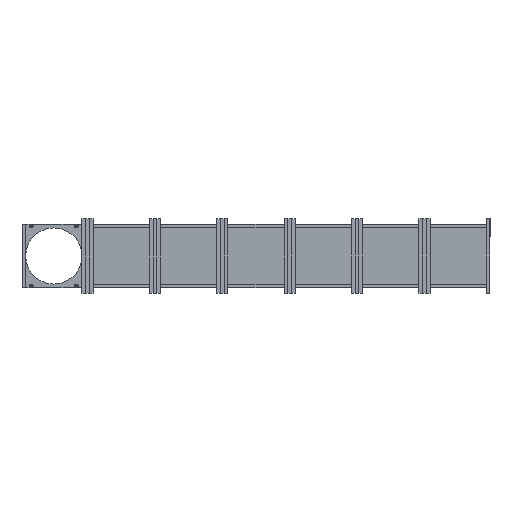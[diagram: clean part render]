
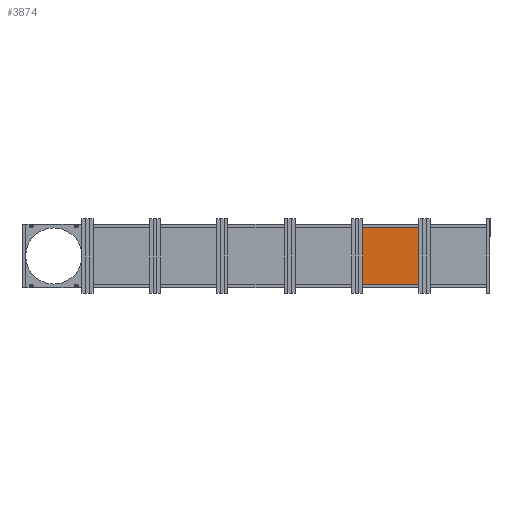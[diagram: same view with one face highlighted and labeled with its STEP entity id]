
A CAD part, front view. The second image highlights one B-rep face of the part: STEP entity #3874.
In plain terms, the highlighted planar face has unit normal (0, -1, 0) as drawn and (0, 0, -1) by its records, which use the part's own axes.
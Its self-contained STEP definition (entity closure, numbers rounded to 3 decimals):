
#948 = DIRECTION ( 'NONE',  ( 1., 0., 0. ) ) ;
#953 = CARTESIAN_POINT ( 'NONE',  ( 0., 0., 0. ) ) ;
#960 = DIRECTION ( 'NONE',  ( 0., 0., 1. ) ) ;
#999 = PLANE ( 'NONE',  #10590 ) ;
#3874 = ADVANCED_FACE ( 'NONE', ( #21902 ), #999, .F. ) ;
#6910 = EDGE_CURVE ( 'NONE', #7837, #7808, #24318, .T. ) ;
#6912 = EDGE_CURVE ( 'NONE', #7808, #7810, #24340, .T. ) ;
#6934 = EDGE_CURVE ( 'NONE', #7818, #7837, #24332, .T. ) ;
#6999 = EDGE_CURVE ( 'NONE', #7810, #7818, #24495, .T. ) ;
#7344 = ORIENTED_EDGE ( 'NONE', *, *, #6999, .F. ) ;
#7352 = ORIENTED_EDGE ( 'NONE', *, *, #6910, .F. ) ;
#7387 = ORIENTED_EDGE ( 'NONE', *, *, #6912, .F. ) ;
#7412 = ORIENTED_EDGE ( 'NONE', *, *, #6934, .F. ) ;
#7808 = VERTEX_POINT ( 'NONE', #31187 ) ;
#7810 = VERTEX_POINT ( 'NONE', #31213 ) ;
#7818 = VERTEX_POINT ( 'NONE', #31241 ) ;
#7837 = VERTEX_POINT ( 'NONE', #31181 ) ;
#8800 = EDGE_LOOP ( 'NONE', ( #7352, #7412, #7344, #7387 ) ) ;
#10590 = AXIS2_PLACEMENT_3D ( 'NONE', #953, #960, #948 ) ;
#21902 = FACE_OUTER_BOUND ( 'NONE', #8800, .T. ) ;
#24318 = LINE ( 'NONE', #28528, #24330 ) ;
#24323 = VECTOR ( 'NONE', #28680, 1000. ) ;
#24330 = VECTOR ( 'NONE', #28563, 1000. ) ;
#24332 = LINE ( 'NONE', #28725, #24323 ) ;
#24340 = LINE ( 'NONE', #28533, #24403 ) ;
#24403 = VECTOR ( 'NONE', #28557, 1000. ) ;
#24495 = LINE ( 'NONE', #32079, #24505 ) ;
#24505 = VECTOR ( 'NONE', #32152, 1000. ) ;
#28528 = CARTESIAN_POINT ( 'NONE',  ( 15., 15., 0. ) ) ;
#28533 = CARTESIAN_POINT ( 'NONE',  ( -15., 15., 0. ) ) ;
#28557 = DIRECTION ( 'NONE',  ( -1., 0., 0. ) ) ;
#28563 = DIRECTION ( 'NONE',  ( 0., 1., 0. ) ) ;
#28680 = DIRECTION ( 'NONE',  ( 1., 0., 0. ) ) ;
#28725 = CARTESIAN_POINT ( 'NONE',  ( -15., -15., 0. ) ) ;
#31181 = CARTESIAN_POINT ( 'NONE',  ( 15., -15., 0. ) ) ;
#31187 = CARTESIAN_POINT ( 'NONE',  ( 15., 15., 0. ) ) ;
#31213 = CARTESIAN_POINT ( 'NONE',  ( -15., 15., 0. ) ) ;
#31241 = CARTESIAN_POINT ( 'NONE',  ( -15., -15., 0. ) ) ;
#32079 = CARTESIAN_POINT ( 'NONE',  ( -15., 15., 0. ) ) ;
#32152 = DIRECTION ( 'NONE',  ( 0., -1., 0. ) ) ;
